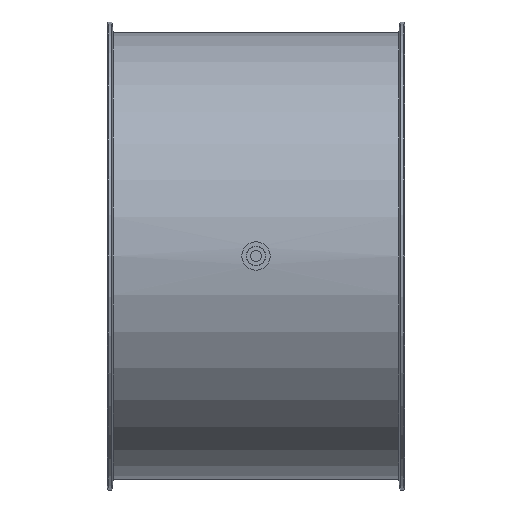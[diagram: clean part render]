
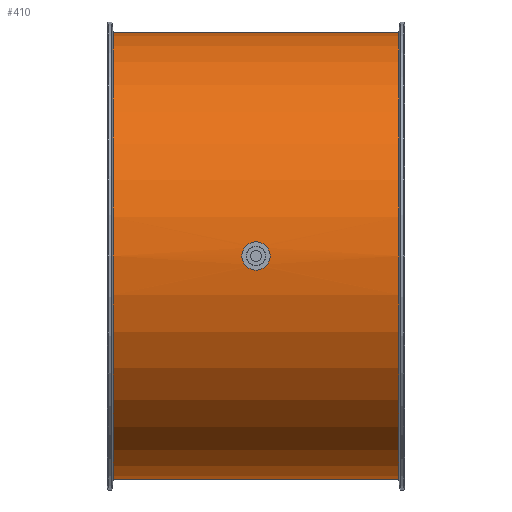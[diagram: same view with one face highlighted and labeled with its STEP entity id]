
A CAD part, front view. The second image highlights one B-rep face of the part: STEP entity #410.
In plain terms, the highlighted cylindrical face has radius 301 mm (diameter 602 mm), a full revolution.
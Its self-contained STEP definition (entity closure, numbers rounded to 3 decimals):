
#101=B_SPLINE_CURVE_WITH_KNOTS('',3,(#1868,#1869,#1870,#1871,#1872,#1873,
#1874,#1875,#1876,#1877,#1878,#1879,#1880,#1881,#1882,#1883,#1884,#1885),
 .UNSPECIFIED.,.T.,.F.,(2,2,2,2,2,2,2,2,2,2,2),(-0.125,0.,0.125,0.25,
0.375,0.5,0.625,0.75,0.875,1.,1.125),.UNSPECIFIED.);
#102=B_SPLINE_CURVE_WITH_KNOTS('',3,(#1887,#1888,#1889,#1890,#1891,#1892,
#1893,#1894,#1895,#1896,#1897,#1898,#1899,#1900,#1901,#1902,#1903,#1904),
 .UNSPECIFIED.,.T.,.F.,(2,2,2,2,2,2,2,2,2,2,2),(-0.125,0.,0.125,0.25,
0.375,0.5,0.625,0.75,0.875,1.,1.125),.UNSPECIFIED.);
#234=CYLINDRICAL_SURFACE('',#1274,301.);
#286=FACE_BOUND('',#571,.T.);
#287=FACE_BOUND('',#572,.T.);
#288=FACE_BOUND('',#573,.T.);
#289=FACE_BOUND('',#574,.T.);
#410=ADVANCED_FACE('',(#286,#287,#288,#289),#234,.T.);
#571=EDGE_LOOP('',(#801));
#572=EDGE_LOOP('',(#802));
#573=EDGE_LOOP('',(#803));
#574=EDGE_LOOP('',(#804));
#801=ORIENTED_EDGE('',*,*,#1072,.F.);
#802=ORIENTED_EDGE('',*,*,#1074,.F.);
#803=ORIENTED_EDGE('',*,*,#1075,.F.);
#804=ORIENTED_EDGE('',*,*,#1076,.F.);
#952=VERTEX_POINT('',#1861);
#954=VERTEX_POINT('',#1866);
#955=VERTEX_POINT('',#1886);
#956=VERTEX_POINT('',#1905);
#1072=EDGE_CURVE('',#952,#952,#1156,.T.);
#1074=EDGE_CURVE('',#954,#954,#1158,.T.);
#1075=EDGE_CURVE('',#955,#955,#101,.T.);
#1076=EDGE_CURVE('',#956,#956,#102,.T.);
#1156=CIRCLE('',#1269,301.);
#1158=CIRCLE('',#1272,301.);
#1269=AXIS2_PLACEMENT_3D('',#1860,#1533,#1534);
#1272=AXIS2_PLACEMENT_3D('',#1865,#1539,#1540);
#1274=AXIS2_PLACEMENT_3D('',#1906,#1543,#1544);
#1533=DIRECTION('',(1.,0.,0.));
#1534=DIRECTION('',(0.,0.,-1.));
#1539=DIRECTION('',(-1.,0.,0.));
#1540=DIRECTION('',(0.,0.,1.));
#1543=DIRECTION('',(1.,0.,0.));
#1544=DIRECTION('',(0.,0.,-1.));
#1860=CARTESIAN_POINT('',(192.133,-109.,125.));
#1861=CARTESIAN_POINT('',(192.133,-109.,-176.));
#1865=CARTESIAN_POINT('',(-192.133,-109.,125.));
#1866=CARTESIAN_POINT('',(-192.133,-109.,426.));
#1868=CARTESIAN_POINT('',(3.436,191.719,112.));
#1869=CARTESIAN_POINT('',(-3.436,191.719,112.));
#1870=CARTESIAN_POINT('',(-6.795,191.786,113.41));
#1871=CARTESIAN_POINT('',(-11.591,191.933,118.207));
#1872=CARTESIAN_POINT('',(-12.998,192.,121.601));
#1873=CARTESIAN_POINT('',(-13.002,192.,128.385));
#1874=CARTESIAN_POINT('',(-11.623,191.934,131.76));
#1875=CARTESIAN_POINT('',(-6.771,191.786,136.616));
#1876=CARTESIAN_POINT('',(-3.398,191.719,137.999));
#1877=CARTESIAN_POINT('',(3.389,191.719,138.001));
#1878=CARTESIAN_POINT('',(6.784,191.786,136.596));
#1879=CARTESIAN_POINT('',(11.583,191.933,131.806));
#1880=CARTESIAN_POINT('',(12.997,192.,128.443));
#1881=CARTESIAN_POINT('',(13.003,192.,121.583));
#1882=CARTESIAN_POINT('',(11.598,191.933,118.217));
#1883=CARTESIAN_POINT('',(6.802,191.786,113.413));
#1884=CARTESIAN_POINT('',(3.436,191.719,112.));
#1885=CARTESIAN_POINT('',(-3.436,191.719,112.));
#1886=CARTESIAN_POINT('',(0.,191.719,112.));
#1887=CARTESIAN_POINT('',(-3.436,-409.719,112.));
#1888=CARTESIAN_POINT('',(3.436,-409.719,112.));
#1889=CARTESIAN_POINT('',(6.795,-409.786,113.41));
#1890=CARTESIAN_POINT('',(11.591,-409.933,118.207));
#1891=CARTESIAN_POINT('',(12.998,-410.,121.601));
#1892=CARTESIAN_POINT('',(13.002,-410.,128.385));
#1893=CARTESIAN_POINT('',(11.623,-409.934,131.76));
#1894=CARTESIAN_POINT('',(6.771,-409.786,136.616));
#1895=CARTESIAN_POINT('',(3.398,-409.719,137.999));
#1896=CARTESIAN_POINT('',(-3.389,-409.719,138.001));
#1897=CARTESIAN_POINT('',(-6.784,-409.786,136.596));
#1898=CARTESIAN_POINT('',(-11.583,-409.933,131.806));
#1899=CARTESIAN_POINT('',(-12.997,-410.,128.443));
#1900=CARTESIAN_POINT('',(-13.003,-410.,121.583));
#1901=CARTESIAN_POINT('',(-11.598,-409.933,118.217));
#1902=CARTESIAN_POINT('',(-6.802,-409.786,113.413));
#1903=CARTESIAN_POINT('',(-3.436,-409.719,112.));
#1904=CARTESIAN_POINT('',(3.436,-409.719,112.));
#1905=CARTESIAN_POINT('',(0.,-409.719,112.));
#1906=CARTESIAN_POINT('',(-200.,-109.,125.));
